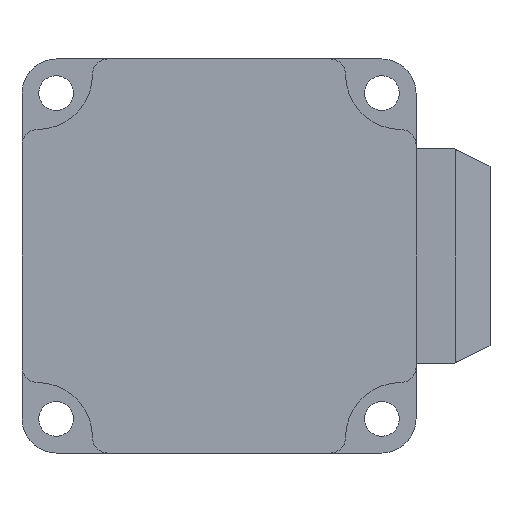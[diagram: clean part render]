
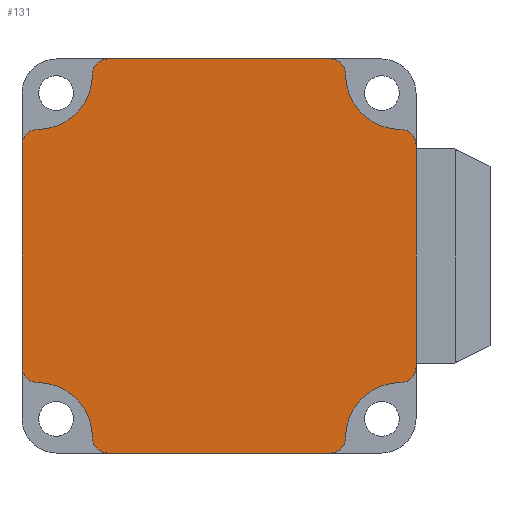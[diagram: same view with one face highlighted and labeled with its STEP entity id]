
A CAD part, front view. The second image highlights one B-rep face of the part: STEP entity #131.
In plain terms, the highlighted planar face has unit normal (0, -1, 0).
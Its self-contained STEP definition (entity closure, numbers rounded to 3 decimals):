
#1 = CARTESIAN_POINT ( 'NONE',  ( 46.8, -99., -54.8 ) ) ;
#11 = DIRECTION ( 'NONE',  ( 0., 0., -1. ) ) ;
#27 = VERTEX_POINT ( 'NONE', #1371 ) ;
#66 = CARTESIAN_POINT ( 'NONE',  ( 12.4, -99., -57. ) ) ;
#88 = DIRECTION ( 'NONE',  ( 0., 0., 1. ) ) ;
#116 = DIRECTION ( 'NONE',  ( -1., 0., 0. ) ) ;
#117 = CARTESIAN_POINT ( 'NONE',  ( 57., -99., 0. ) ) ;
#125 = ORIENTED_EDGE ( 'NONE', *, *, #2627, .F. ) ;
#131 = ADVANCED_FACE ( 'NONE', ( #1945 ), #1131, .T. ) ;
#197 = DIRECTION ( 'NONE',  ( 0., 0., -1. ) ) ;
#200 = EDGE_CURVE ( 'NONE', #1296, #27, #1200, .T. ) ;
#227 = CARTESIAN_POINT ( 'NONE',  ( 44.6, -99., -54.8 ) ) ;
#238 = CARTESIAN_POINT ( 'NONE',  ( 0., -99., 0. ) ) ;
#252 = VERTEX_POINT ( 'NONE', #1344 ) ;
#277 = ORIENTED_EDGE ( 'NONE', *, *, #909, .F. ) ;
#295 = AXIS2_PLACEMENT_3D ( 'NONE', #1129, #2358, #836 ) ;
#307 = CARTESIAN_POINT ( 'NONE',  ( 2.2, -99., -46.8 ) ) ;
#342 = LINE ( 'NONE', #117, #2472 ) ;
#372 = VECTOR ( 'NONE', #116, 1000. ) ;
#399 = VERTEX_POINT ( 'NONE', #1856 ) ;
#489 = CARTESIAN_POINT ( 'NONE',  ( 2.2, -99., -2.2 ) ) ;
#509 = LINE ( 'NONE', #1087, #2615 ) ;
#538 = DIRECTION ( 'NONE',  ( 0., 1., 0. ) ) ;
#555 = EDGE_CURVE ( 'NONE', #1335, #2240, #1702, .T. ) ;
#566 = VERTEX_POINT ( 'NONE', #1691 ) ;
#608 = CIRCLE ( 'NONE', #2643, 8. ) ;
#654 = DIRECTION ( 'NONE',  ( 0., 0., 1. ) ) ;
#660 = DIRECTION ( 'NONE',  ( 0., -1., 0. ) ) ;
#674 = CARTESIAN_POINT ( 'NONE',  ( 0., -99., 0. ) ) ;
#696 = ORIENTED_EDGE ( 'NONE', *, *, #2539, .F. ) ;
#702 = CIRCLE ( 'NONE', #2305, 2.2 ) ;
#811 = CIRCLE ( 'NONE', #1135, 8. ) ;
#812 = AXIS2_PLACEMENT_3D ( 'NONE', #1564, #2594, #88 ) ;
#830 = VERTEX_POINT ( 'NONE', #1491 ) ;
#836 = DIRECTION ( 'NONE',  ( 0., 0., -1. ) ) ;
#844 = ORIENTED_EDGE ( 'NONE', *, *, #200, .F. ) ;
#887 = DIRECTION ( 'NONE',  ( 0., 1., 0. ) ) ;
#905 = EDGE_CURVE ( 'NONE', #252, #2364, #937, .T. ) ;
#909 = EDGE_CURVE ( 'NONE', #2240, #1209, #2018, .T. ) ;
#921 = ORIENTED_EDGE ( 'NONE', *, *, #555, .F. ) ;
#937 = CIRCLE ( 'NONE', #1345, 8. ) ;
#960 = ORIENTED_EDGE ( 'NONE', *, *, #1060, .F. ) ;
#971 = LINE ( 'NONE', #238, #2062 ) ;
#1007 = AXIS2_PLACEMENT_3D ( 'NONE', #674, #660, #197 ) ;
#1024 = ORIENTED_EDGE ( 'NONE', *, *, #1163, .F. ) ;
#1045 = EDGE_CURVE ( 'NONE', #830, #566, #608, .T. ) ;
#1060 = EDGE_CURVE ( 'NONE', #566, #2681, #1688, .T. ) ;
#1087 = CARTESIAN_POINT ( 'NONE',  ( 0., -99., 0. ) ) ;
#1115 = CIRCLE ( 'NONE', #2226, 2.2 ) ;
#1129 = CARTESIAN_POINT ( 'NONE',  ( 2.2, -99., -44.6 ) ) ;
#1131 = PLANE ( 'NONE',  #1007 ) ;
#1135 = AXIS2_PLACEMENT_3D ( 'NONE', #1294, #2531, #11 ) ;
#1163 = EDGE_CURVE ( 'NONE', #1756, #1335, #2052, .T. ) ;
#1187 = DIRECTION ( 'NONE',  ( 1., 0., 0. ) ) ;
#1200 = CIRCLE ( 'NONE', #1352, 2.2 ) ;
#1209 = VERTEX_POINT ( 'NONE', #66 ) ;
#1255 = CARTESIAN_POINT ( 'NONE',  ( 54.8, -99., -54.8 ) ) ;
#1273 = EDGE_CURVE ( 'NONE', #399, #830, #702, .T. ) ;
#1294 = CARTESIAN_POINT ( 'NONE',  ( 54.8, -99., -2.2 ) ) ;
#1296 = VERTEX_POINT ( 'NONE', #1389 ) ;
#1298 = DIRECTION ( 'NONE',  ( 0., 1., 0. ) ) ;
#1310 = EDGE_CURVE ( 'NONE', #1209, #252, #1115, .T. ) ;
#1314 = CIRCLE ( 'NONE', #295, 2.2 ) ;
#1316 = DIRECTION ( 'NONE',  ( 0., 0., -1. ) ) ;
#1335 = VERTEX_POINT ( 'NONE', #1 ) ;
#1344 = CARTESIAN_POINT ( 'NONE',  ( 10.2, -99., -54.8 ) ) ;
#1345 = AXIS2_PLACEMENT_3D ( 'NONE', #2349, #1635, #1831 ) ;
#1352 = AXIS2_PLACEMENT_3D ( 'NONE', #2036, #1298, #654 ) ;
#1354 = DIRECTION ( 'NONE',  ( 0., 0., 1. ) ) ;
#1355 = ORIENTED_EDGE ( 'NONE', *, *, #1273, .F. ) ;
#1371 = CARTESIAN_POINT ( 'NONE',  ( 46.8, -99., -2.2 ) ) ;
#1373 = AXIS2_PLACEMENT_3D ( 'NONE', #227, #1682, #1316 ) ;
#1376 = EDGE_CURVE ( 'NONE', #2223, #399, #509, .T. ) ;
#1385 = CARTESIAN_POINT ( 'NONE',  ( 54.8, -99., -46.8 ) ) ;
#1389 = CARTESIAN_POINT ( 'NONE',  ( 44.6, -99., 0. ) ) ;
#1400 = CARTESIAN_POINT ( 'NONE',  ( 57., -99., -44.6 ) ) ;
#1413 = DIRECTION ( 'NONE',  ( 0., 0., -1. ) ) ;
#1481 = CARTESIAN_POINT ( 'NONE',  ( 12.4, -99., -2.2 ) ) ;
#1491 = CARTESIAN_POINT ( 'NONE',  ( 2.2, -99., -10.2 ) ) ;
#1515 = CARTESIAN_POINT ( 'NONE',  ( 0., -99., -57. ) ) ;
#1516 = CARTESIAN_POINT ( 'NONE',  ( 12.4, -99., 0. ) ) ;
#1518 = EDGE_CURVE ( 'NONE', #1553, #1660, #2481, .T. ) ;
#1553 = VERTEX_POINT ( 'NONE', #2451 ) ;
#1564 = CARTESIAN_POINT ( 'NONE',  ( 54.8, -99., -44.6 ) ) ;
#1635 = DIRECTION ( 'NONE',  ( 0., -1., 0. ) ) ;
#1642 = ORIENTED_EDGE ( 'NONE', *, *, #905, .F. ) ;
#1660 = VERTEX_POINT ( 'NONE', #1718 ) ;
#1682 = DIRECTION ( 'NONE',  ( 0., 1., 0. ) ) ;
#1686 = DIRECTION ( 'NONE',  ( 0., 0., 1. ) ) ;
#1688 = CIRCLE ( 'NONE', #2611, 2.2 ) ;
#1691 = CARTESIAN_POINT ( 'NONE',  ( 10.2, -99., -2.2 ) ) ;
#1702 = CIRCLE ( 'NONE', #1373, 2.2 ) ;
#1718 = CARTESIAN_POINT ( 'NONE',  ( 57., -99., -12.4 ) ) ;
#1756 = VERTEX_POINT ( 'NONE', #1385 ) ;
#1768 = CARTESIAN_POINT ( 'NONE',  ( 44.6, -99., -57. ) ) ;
#1776 = AXIS2_PLACEMENT_3D ( 'NONE', #2441, #2241, #1413 ) ;
#1792 = DIRECTION ( 'NONE',  ( 0., -1., 0. ) ) ;
#1817 = VERTEX_POINT ( 'NONE', #1400 ) ;
#1831 = DIRECTION ( 'NONE',  ( 0., 0., 1. ) ) ;
#1851 = EDGE_CURVE ( 'NONE', #27, #1553, #811, .T. ) ;
#1856 = CARTESIAN_POINT ( 'NONE',  ( 0., -99., -12.4 ) ) ;
#1869 = ORIENTED_EDGE ( 'NONE', *, *, #2216, .F. ) ;
#1876 = ORIENTED_EDGE ( 'NONE', *, *, #1310, .F. ) ;
#1945 = FACE_OUTER_BOUND ( 'NONE', #2042, .T. ) ;
#1955 = ORIENTED_EDGE ( 'NONE', *, *, #1851, .F. ) ;
#1969 = DIRECTION ( 'NONE',  ( 0., 1., 0. ) ) ;
#1994 = ORIENTED_EDGE ( 'NONE', *, *, #1376, .F. ) ;
#2018 = LINE ( 'NONE', #1515, #372 ) ;
#2036 = CARTESIAN_POINT ( 'NONE',  ( 44.6, -99., -2.2 ) ) ;
#2042 = EDGE_LOOP ( 'NONE', ( #1876, #277, #921, #1024, #1869, #696, #2609, #1955, #844, #2644, #960, #2262, #1355, #1994, #125, #1642 ) ) ;
#2047 = DIRECTION ( 'NONE',  ( 0., 0., 1. ) ) ;
#2052 = CIRCLE ( 'NONE', #2448, 8. ) ;
#2062 = VECTOR ( 'NONE', #1187, 1000. ) ;
#2118 = CARTESIAN_POINT ( 'NONE',  ( 12.4, -99., -54.8 ) ) ;
#2122 = DIRECTION ( 'NONE',  ( 0., 0., 1. ) ) ;
#2161 = DIRECTION ( 'NONE',  ( 0., 0., -1. ) ) ;
#2164 = DIRECTION ( 'NONE',  ( 0., 0., 1. ) ) ;
#2183 = CARTESIAN_POINT ( 'NONE',  ( 2.2, -99., -12.4 ) ) ;
#2216 = EDGE_CURVE ( 'NONE', #1817, #1756, #2411, .T. ) ;
#2223 = VERTEX_POINT ( 'NONE', #2390 ) ;
#2226 = AXIS2_PLACEMENT_3D ( 'NONE', #2118, #887, #1686 ) ;
#2240 = VERTEX_POINT ( 'NONE', #1768 ) ;
#2241 = DIRECTION ( 'NONE',  ( 0., 1., 0. ) ) ;
#2262 = ORIENTED_EDGE ( 'NONE', *, *, #1045, .F. ) ;
#2305 = AXIS2_PLACEMENT_3D ( 'NONE', #2183, #538, #2164 ) ;
#2315 = DIRECTION ( 'NONE',  ( 0., 0., -1. ) ) ;
#2349 = CARTESIAN_POINT ( 'NONE',  ( 2.2, -99., -54.8 ) ) ;
#2358 = DIRECTION ( 'NONE',  ( 0., 1., 0. ) ) ;
#2364 = VERTEX_POINT ( 'NONE', #307 ) ;
#2390 = CARTESIAN_POINT ( 'NONE',  ( 0., -99., -44.6 ) ) ;
#2411 = CIRCLE ( 'NONE', #812, 2.2 ) ;
#2441 = CARTESIAN_POINT ( 'NONE',  ( 54.8, -99., -12.4 ) ) ;
#2448 = AXIS2_PLACEMENT_3D ( 'NONE', #1255, #2494, #1354 ) ;
#2451 = CARTESIAN_POINT ( 'NONE',  ( 54.8, -99., -10.2 ) ) ;
#2472 = VECTOR ( 'NONE', #2161, 1000. ) ;
#2481 = CIRCLE ( 'NONE', #1776, 2.2 ) ;
#2494 = DIRECTION ( 'NONE',  ( 0., -1., 0. ) ) ;
#2508 = EDGE_CURVE ( 'NONE', #2681, #1296, #971, .T. ) ;
#2531 = DIRECTION ( 'NONE',  ( 0., -1., 0. ) ) ;
#2539 = EDGE_CURVE ( 'NONE', #1660, #1817, #342, .T. ) ;
#2594 = DIRECTION ( 'NONE',  ( 0., 1., 0. ) ) ;
#2609 = ORIENTED_EDGE ( 'NONE', *, *, #1518, .F. ) ;
#2611 = AXIS2_PLACEMENT_3D ( 'NONE', #1481, #1969, #2315 ) ;
#2615 = VECTOR ( 'NONE', #2047, 1000. ) ;
#2627 = EDGE_CURVE ( 'NONE', #2364, #2223, #1314, .T. ) ;
#2643 = AXIS2_PLACEMENT_3D ( 'NONE', #489, #1792, #2122 ) ;
#2644 = ORIENTED_EDGE ( 'NONE', *, *, #2508, .F. ) ;
#2681 = VERTEX_POINT ( 'NONE', #1516 ) ;
